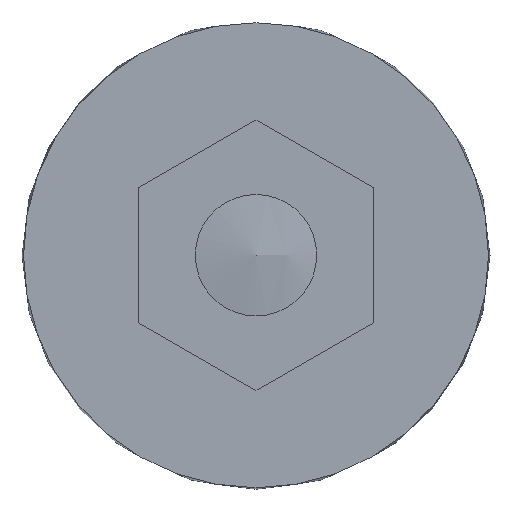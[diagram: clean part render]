
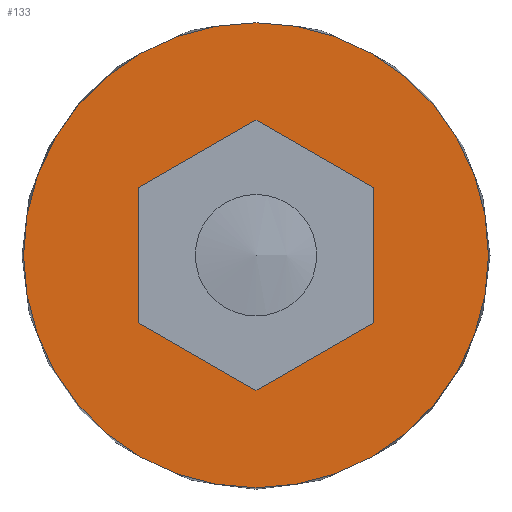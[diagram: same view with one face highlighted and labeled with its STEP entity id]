
A CAD part, front view. The second image highlights one B-rep face of the part: STEP entity #133.
In plain terms, the highlighted planar face has unit normal (0, -1, 0) as drawn and (0, 1, 0) by its records, which use the part's own axes.
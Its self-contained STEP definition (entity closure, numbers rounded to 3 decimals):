
#133 = ADVANCED_FACE( '', ( #160, #161 ), #162, .F. );
#160 = FACE_OUTER_BOUND( '', #217, .T. );
#161 = FACE_BOUND( '', #218, .T. );
#162 = PLANE( '', #219 );
#217 = EDGE_LOOP( '', ( #314 ) );
#218 = EDGE_LOOP( '', ( #315, #316, #317, #318, #319, #320 ) );
#219 = AXIS2_PLACEMENT_3D( '', #321, #322, #323 );
#314 = ORIENTED_EDGE( '', *, *, #466, .F. );
#315 = ORIENTED_EDGE( '', *, *, #467, .T. );
#316 = ORIENTED_EDGE( '', *, *, #468, .T. );
#317 = ORIENTED_EDGE( '', *, *, #469, .T. );
#318 = ORIENTED_EDGE( '', *, *, #470, .T. );
#319 = ORIENTED_EDGE( '', *, *, #471, .T. );
#320 = ORIENTED_EDGE( '', *, *, #472, .T. );
#321 = CARTESIAN_POINT( '', ( 6.08, -5., 0. ) );
#322 = DIRECTION( '', ( 0., -1., 0. ) );
#323 = DIRECTION( '', ( 0., 0., -1. ) );
#466 = EDGE_CURVE( '', #518, #518, #519, .T. );
#467 = EDGE_CURVE( '', #520, #521, #522, .T. );
#468 = EDGE_CURVE( '', #521, #523, #524, .T. );
#469 = EDGE_CURVE( '', #523, #525, #526, .T. );
#470 = EDGE_CURVE( '', #525, #527, #528, .T. );
#471 = EDGE_CURVE( '', #527, #529, #530, .T. );
#472 = EDGE_CURVE( '', #529, #520, #531, .T. );
#518 = VERTEX_POINT( '', #600 );
#519 = CIRCLE( '', #601, 26.804 );
#520 = VERTEX_POINT( '', #602 );
#521 = VERTEX_POINT( '', #603 );
#522 = LINE( '', #604, #605 );
#523 = VERTEX_POINT( '', #606 );
#524 = LINE( '', #607, #608 );
#525 = VERTEX_POINT( '', #609 );
#526 = LINE( '', #610, #611 );
#527 = VERTEX_POINT( '', #612 );
#528 = LINE( '', #613, #614 );
#529 = VERTEX_POINT( '', #615 );
#530 = LINE( '', #616, #617 );
#531 = LINE( '', #618, #619 );
#600 = CARTESIAN_POINT( '', ( 0., -5., -26.804 ) );
#601 = AXIS2_PLACEMENT_3D( '', #701, #702, #703 );
#602 = CARTESIAN_POINT( '', ( 13.5, -5., 7.794 ) );
#603 = CARTESIAN_POINT( '', ( 0., -5., 15.588 ) );
#604 = CARTESIAN_POINT( '', ( 11.31, -5., 9.059 ) );
#605 = VECTOR( '', #704, 1000. );
#606 = CARTESIAN_POINT( '', ( -13.5, -5., 7.794 ) );
#607 = CARTESIAN_POINT( '', ( -2.19, -5., 14.324 ) );
#608 = VECTOR( '', #705, 1000. );
#609 = CARTESIAN_POINT( '', ( -13.5, -5., -7.794 ) );
#610 = CARTESIAN_POINT( '', ( -13.5, -5., 0. ) );
#611 = VECTOR( '', #706, 1000. );
#612 = CARTESIAN_POINT( '', ( 0., -5., -15.588 ) );
#613 = CARTESIAN_POINT( '', ( -2.19, -5., -14.324 ) );
#614 = VECTOR( '', #707, 1000. );
#615 = CARTESIAN_POINT( '', ( 13.5, -5., -7.794 ) );
#616 = CARTESIAN_POINT( '', ( 11.31, -5., -9.059 ) );
#617 = VECTOR( '', #708, 1000. );
#618 = CARTESIAN_POINT( '', ( 13.5, -5., 0. ) );
#619 = VECTOR( '', #709, 1000. );
#701 = CARTESIAN_POINT( '', ( 0., -5., 0. ) );
#702 = DIRECTION( '', ( 0., -1., 0. ) );
#703 = DIRECTION( '', ( 0., 0., -1. ) );
#704 = DIRECTION( '', ( -0.866, 0., 0.5 ) );
#705 = DIRECTION( '', ( -0.866, 0., -0.5 ) );
#706 = DIRECTION( '', ( 0., 0., -1. ) );
#707 = DIRECTION( '', ( 0.866, 0., -0.5 ) );
#708 = DIRECTION( '', ( 0.866, 0., 0.5 ) );
#709 = DIRECTION( '', ( 0., 0., 1. ) );
